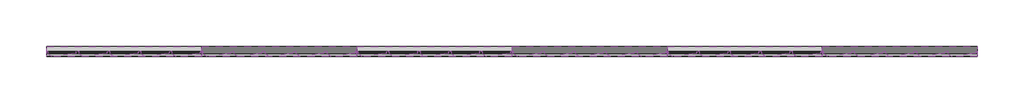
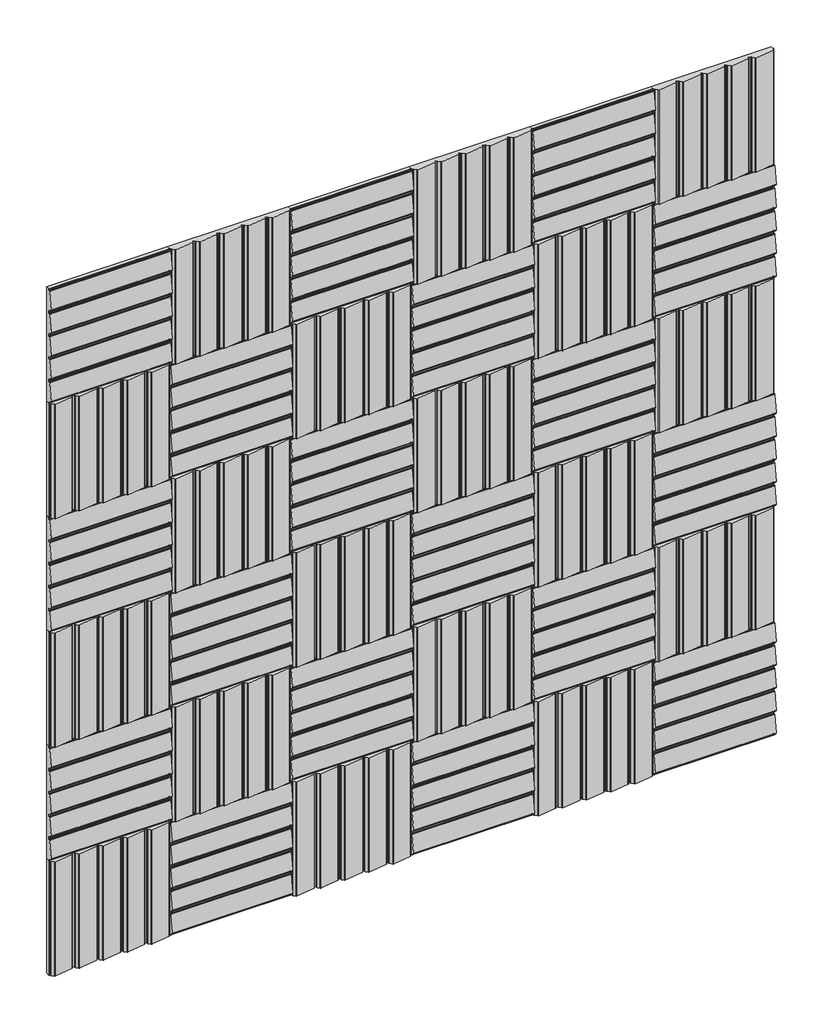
# One storey: 36 proxies.
"""IFC4 building model written with IfcOpenShell, lengths in millimetres."""

from ifc_helpers import new_model, si_unit, origin, place, context, project, spatial, transform, mapped, element, save
from components import specialty_equipment_dc48855c

model = new_model("IFC4")

# Units and contexts
model_context = context("Model", 3, world=origin())
ifc_project = project(units=[si_unit("LENGTHUNIT", "METRE", prefix="MILLI")], contexts=[model_context])

# Site, building, storey
site = spatial("IfcSite", under=ifc_project)
building = spatial("IfcBuilding", under=site)
storey = spatial("IfcBuildingStorey", under=building, Name="Nível 1", Elevation=0.0)

# Proxies
placement = place(None, origin())
specialty_equipment_shape = specialty_equipment_dc48855c(model_context)
element("IfcBuildingElementProxy", 1, Name="Spinneybeck_Porto 3 : Porto 3", ObjectType="Spinneybeck_Porto 3 : Porto 3", at=placement, inside=storey, context=model_context, shape_type="MappedRepresentation", body=[
    mapped(specialty_equipment_shape, transform((-6208.1950363, 552.5357437, 203.2), x_axis=(1.0, 0.0, 0.0), y_axis=(0.0, 0.0, 1.0), z_axis=(0.0, -1.0, 0.0))),
])
element("IfcBuildingElementProxy", 2, Name="Spinneybeck_Porto 3 : Porto 3", ObjectType="Spinneybeck_Porto 3 : Porto 3", at=placement, inside=storey, context=model_context, shape_type="MappedRepresentation", body=[
    mapped(specialty_equipment_shape, transform((-6208.1950363, 552.5357437, 609.6), x_axis=(0.0, 0.0, 1.0), y_axis=(-1.0, 0.0, 0.0), z_axis=(0.0, -1.0, 0.0))),
])
element("IfcBuildingElementProxy", 3, Name="Spinneybeck_Porto 3 : Porto 3", ObjectType="Spinneybeck_Porto 3 : Porto 3", at=placement, inside=storey, context=model_context, shape_type="MappedRepresentation", body=[
    mapped(specialty_equipment_shape, transform((-6208.1950363, 552.5357437, 1016.0), x_axis=(1.0, 0.0, 0.0), y_axis=(0.0, 0.0, 1.0), z_axis=(0.0, -1.0, 0.0))),
])
element("IfcBuildingElementProxy", 4, Name="Spinneybeck_Porto 3 : Porto 3", ObjectType="Spinneybeck_Porto 3 : Porto 3", at=placement, inside=storey, context=model_context, shape_type="MappedRepresentation", body=[
    mapped(specialty_equipment_shape, transform((-6208.1950363, 552.5357437, 1422.4), x_axis=(0.0, 0.0, 1.0), y_axis=(-1.0, 0.0, 0.0), z_axis=(0.0, -1.0, 0.0))),
])
element("IfcBuildingElementProxy", 5, Name="Spinneybeck_Porto 3 : Porto 3", ObjectType="Spinneybeck_Porto 3 : Porto 3", at=placement, inside=storey, context=model_context, shape_type="MappedRepresentation", body=[
    mapped(specialty_equipment_shape, transform((-6208.1950363, 552.5357437, 1828.8), x_axis=(1.0, 0.0, 0.0), y_axis=(0.0, 0.0, 1.0), z_axis=(0.0, -1.0, 0.0))),
])
element("IfcBuildingElementProxy", 6, Name="Spinneybeck_Porto 3 : Porto 3", ObjectType="Spinneybeck_Porto 3 : Porto 3", at=placement, inside=storey, context=model_context, shape_type="MappedRepresentation", body=[
    mapped(specialty_equipment_shape, transform((-6208.1950363, 552.5357437, 2235.2), x_axis=(0.0, 0.0, 1.0), y_axis=(-1.0, 0.0, 0.0), z_axis=(0.0, -1.0, 0.0))),
])
element("IfcBuildingElementProxy", 7, Name="Spinneybeck_Porto 3 : Porto 3", ObjectType="Spinneybeck_Porto 3 : Porto 3", at=placement, inside=storey, context=model_context, shape_type="MappedRepresentation", body=[
    mapped(specialty_equipment_shape, transform((-5801.7950363, 552.5357437, 203.2), x_axis=(0.0, 0.0, 1.0), y_axis=(-1.0, 0.0, 0.0), z_axis=(0.0, -1.0, 0.0))),
])
element("IfcBuildingElementProxy", 8, Name="Spinneybeck_Porto 3 : Porto 3", ObjectType="Spinneybeck_Porto 3 : Porto 3", at=placement, inside=storey, context=model_context, shape_type="MappedRepresentation", body=[
    mapped(specialty_equipment_shape, transform((-5801.7950363, 552.5357437, 609.6), x_axis=(1.0, 0.0, 0.0), y_axis=(0.0, 0.0, 1.0), z_axis=(0.0, -1.0, 0.0))),
])
element("IfcBuildingElementProxy", 9, Name="Spinneybeck_Porto 3 : Porto 3", ObjectType="Spinneybeck_Porto 3 : Porto 3", at=placement, inside=storey, context=model_context, shape_type="MappedRepresentation", body=[
    mapped(specialty_equipment_shape, transform((-5801.7950363, 552.5357437, 1016.0), x_axis=(0.0, 0.0, 1.0), y_axis=(-1.0, 0.0, 0.0), z_axis=(0.0, -1.0, 0.0))),
])
element("IfcBuildingElementProxy", 10, Name="Spinneybeck_Porto 3 : Porto 3", ObjectType="Spinneybeck_Porto 3 : Porto 3", at=placement, inside=storey, context=model_context, shape_type="MappedRepresentation", body=[
    mapped(specialty_equipment_shape, transform((-5801.7950363, 552.5357437, 1422.4), x_axis=(1.0, 0.0, 0.0), y_axis=(0.0, 0.0, 1.0), z_axis=(0.0, -1.0, 0.0))),
])
element("IfcBuildingElementProxy", 11, Name="Spinneybeck_Porto 3 : Porto 3", ObjectType="Spinneybeck_Porto 3 : Porto 3", at=placement, inside=storey, context=model_context, shape_type="MappedRepresentation", body=[
    mapped(specialty_equipment_shape, transform((-5801.7950363, 552.5357437, 1828.8), x_axis=(0.0, 0.0, 1.0), y_axis=(-1.0, 0.0, 0.0), z_axis=(0.0, -1.0, 0.0))),
])
element("IfcBuildingElementProxy", 12, Name="Spinneybeck_Porto 3 : Porto 3", ObjectType="Spinneybeck_Porto 3 : Porto 3", at=placement, inside=storey, context=model_context, shape_type="MappedRepresentation", body=[
    mapped(specialty_equipment_shape, transform((-5801.7950363, 552.5357437, 2235.2), x_axis=(1.0, 0.0, 0.0), y_axis=(0.0, 0.0, 1.0), z_axis=(0.0, -1.0, 0.0))),
])
element("IfcBuildingElementProxy", 13, Name="Spinneybeck_Porto 3 : Porto 3", ObjectType="Spinneybeck_Porto 3 : Porto 3", at=placement, inside=storey, context=model_context, shape_type="MappedRepresentation", body=[
    mapped(specialty_equipment_shape, transform((-5395.3950363, 552.5357437, 203.2), x_axis=(1.0, 0.0, 0.0), y_axis=(0.0, 0.0, 1.0), z_axis=(0.0, -1.0, 0.0))),
])
element("IfcBuildingElementProxy", 14, Name="Spinneybeck_Porto 3 : Porto 3", ObjectType="Spinneybeck_Porto 3 : Porto 3", at=placement, inside=storey, context=model_context, shape_type="MappedRepresentation", body=[
    mapped(specialty_equipment_shape, transform((-5395.3950363, 552.5357437, 609.6), x_axis=(0.0, 0.0, 1.0), y_axis=(-1.0, 0.0, 0.0), z_axis=(0.0, -1.0, 0.0))),
])
element("IfcBuildingElementProxy", 15, Name="Spinneybeck_Porto 3 : Porto 3", ObjectType="Spinneybeck_Porto 3 : Porto 3", at=placement, inside=storey, context=model_context, shape_type="MappedRepresentation", body=[
    mapped(specialty_equipment_shape, transform((-5395.3950363, 552.5357437, 1016.0), x_axis=(1.0, 0.0, 0.0), y_axis=(0.0, 0.0, 1.0), z_axis=(0.0, -1.0, 0.0))),
])
element("IfcBuildingElementProxy", 16, Name="Spinneybeck_Porto 3 : Porto 3", ObjectType="Spinneybeck_Porto 3 : Porto 3", at=placement, inside=storey, context=model_context, shape_type="MappedRepresentation", body=[
    mapped(specialty_equipment_shape, transform((-5395.3950363, 552.5357437, 1422.4), x_axis=(0.0, 0.0, 1.0), y_axis=(-1.0, 0.0, 0.0), z_axis=(0.0, -1.0, 0.0))),
])
element("IfcBuildingElementProxy", 17, Name="Spinneybeck_Porto 3 : Porto 3", ObjectType="Spinneybeck_Porto 3 : Porto 3", at=placement, inside=storey, context=model_context, shape_type="MappedRepresentation", body=[
    mapped(specialty_equipment_shape, transform((-5395.3950363, 552.5357437, 1828.8), x_axis=(1.0, 0.0, 0.0), y_axis=(0.0, 0.0, 1.0), z_axis=(0.0, -1.0, 0.0))),
])
element("IfcBuildingElementProxy", 18, Name="Spinneybeck_Porto 3 : Porto 3", ObjectType="Spinneybeck_Porto 3 : Porto 3", at=placement, inside=storey, context=model_context, shape_type="MappedRepresentation", body=[
    mapped(specialty_equipment_shape, transform((-5395.3950363, 552.5357437, 2235.2), x_axis=(0.0, 0.0, 1.0), y_axis=(-1.0, 0.0, 0.0), z_axis=(0.0, -1.0, 0.0))),
])
element("IfcBuildingElementProxy", 19, Name="Spinneybeck_Porto 3 : Porto 3", ObjectType="Spinneybeck_Porto 3 : Porto 3", at=placement, inside=storey, context=model_context, shape_type="MappedRepresentation", body=[
    mapped(specialty_equipment_shape, transform((-4988.9950363, 552.5357437, 203.2), x_axis=(0.0, 0.0, 1.0), y_axis=(-1.0, 0.0, 0.0), z_axis=(0.0, -1.0, 0.0))),
])
element("IfcBuildingElementProxy", 20, Name="Spinneybeck_Porto 3 : Porto 3", ObjectType="Spinneybeck_Porto 3 : Porto 3", at=placement, inside=storey, context=model_context, shape_type="MappedRepresentation", body=[
    mapped(specialty_equipment_shape, transform((-4988.9950363, 552.5357437, 609.6), x_axis=(1.0, 0.0, 0.0), y_axis=(0.0, 0.0, 1.0), z_axis=(0.0, -1.0, 0.0))),
])
element("IfcBuildingElementProxy", 21, Name="Spinneybeck_Porto 3 : Porto 3", ObjectType="Spinneybeck_Porto 3 : Porto 3", at=placement, inside=storey, context=model_context, shape_type="MappedRepresentation", body=[
    mapped(specialty_equipment_shape, transform((-4988.9950363, 552.5357437, 1016.0), x_axis=(0.0, 0.0, 1.0), y_axis=(-1.0, 0.0, 0.0), z_axis=(0.0, -1.0, 0.0))),
])
element("IfcBuildingElementProxy", 22, Name="Spinneybeck_Porto 3 : Porto 3", ObjectType="Spinneybeck_Porto 3 : Porto 3", at=placement, inside=storey, context=model_context, shape_type="MappedRepresentation", body=[
    mapped(specialty_equipment_shape, transform((-4988.9950363, 552.5357437, 1422.4), x_axis=(1.0, 0.0, 0.0), y_axis=(0.0, 0.0, 1.0), z_axis=(0.0, -1.0, 0.0))),
])
element("IfcBuildingElementProxy", 23, Name="Spinneybeck_Porto 3 : Porto 3", ObjectType="Spinneybeck_Porto 3 : Porto 3", at=placement, inside=storey, context=model_context, shape_type="MappedRepresentation", body=[
    mapped(specialty_equipment_shape, transform((-4988.9950363, 552.5357437, 1828.8), x_axis=(0.0, 0.0, 1.0), y_axis=(-1.0, 0.0, 0.0), z_axis=(0.0, -1.0, 0.0))),
])
element("IfcBuildingElementProxy", 24, Name="Spinneybeck_Porto 3 : Porto 3", ObjectType="Spinneybeck_Porto 3 : Porto 3", at=placement, inside=storey, context=model_context, shape_type="MappedRepresentation", body=[
    mapped(specialty_equipment_shape, transform((-4988.9950363, 552.5357437, 2235.2), x_axis=(1.0, 0.0, 0.0), y_axis=(0.0, 0.0, 1.0), z_axis=(0.0, -1.0, 0.0))),
])
element("IfcBuildingElementProxy", 25, Name="Spinneybeck_Porto 3 : Porto 3", ObjectType="Spinneybeck_Porto 3 : Porto 3", at=placement, inside=storey, context=model_context, shape_type="MappedRepresentation", body=[
    mapped(specialty_equipment_shape, transform((-4582.5950363, 552.5357437, 203.2), x_axis=(1.0, 0.0, 0.0), y_axis=(0.0, 0.0, 1.0), z_axis=(0.0, -1.0, 0.0))),
])
element("IfcBuildingElementProxy", 26, Name="Spinneybeck_Porto 3 : Porto 3", ObjectType="Spinneybeck_Porto 3 : Porto 3", at=placement, inside=storey, context=model_context, shape_type="MappedRepresentation", body=[
    mapped(specialty_equipment_shape, transform((-4582.5950363, 552.5357437, 609.6), x_axis=(0.0, 0.0, 1.0), y_axis=(-1.0, 0.0, 0.0), z_axis=(0.0, -1.0, 0.0))),
])
element("IfcBuildingElementProxy", 27, Name="Spinneybeck_Porto 3 : Porto 3", ObjectType="Spinneybeck_Porto 3 : Porto 3", at=placement, inside=storey, context=model_context, shape_type="MappedRepresentation", body=[
    mapped(specialty_equipment_shape, transform((-4582.5950363, 552.5357437, 1016.0), x_axis=(1.0, 0.0, 0.0), y_axis=(0.0, 0.0, 1.0), z_axis=(0.0, -1.0, 0.0))),
])
element("IfcBuildingElementProxy", 28, Name="Spinneybeck_Porto 3 : Porto 3", ObjectType="Spinneybeck_Porto 3 : Porto 3", at=placement, inside=storey, context=model_context, shape_type="MappedRepresentation", body=[
    mapped(specialty_equipment_shape, transform((-4582.5950363, 552.5357437, 1422.4), x_axis=(0.0, 0.0, 1.0), y_axis=(-1.0, 0.0, 0.0), z_axis=(0.0, -1.0, 0.0))),
])
element("IfcBuildingElementProxy", 29, Name="Spinneybeck_Porto 3 : Porto 3", ObjectType="Spinneybeck_Porto 3 : Porto 3", at=placement, inside=storey, context=model_context, shape_type="MappedRepresentation", body=[
    mapped(specialty_equipment_shape, transform((-4582.5950363, 552.5357437, 1828.8), x_axis=(1.0, 0.0, 0.0), y_axis=(0.0, 0.0, 1.0), z_axis=(0.0, -1.0, 0.0))),
])
element("IfcBuildingElementProxy", 30, Name="Spinneybeck_Porto 3 : Porto 3", ObjectType="Spinneybeck_Porto 3 : Porto 3", at=placement, inside=storey, context=model_context, shape_type="MappedRepresentation", body=[
    mapped(specialty_equipment_shape, transform((-4582.5950363, 552.5357437, 2235.2), x_axis=(0.0, 0.0, 1.0), y_axis=(-1.0, 0.0, 0.0), z_axis=(0.0, -1.0, 0.0))),
])
element("IfcBuildingElementProxy", 31, Name="Spinneybeck_Porto 3 : Porto 3", ObjectType="Spinneybeck_Porto 3 : Porto 3", at=placement, inside=storey, context=model_context, shape_type="MappedRepresentation", body=[
    mapped(specialty_equipment_shape, transform((-4176.1950363, 552.5357437, 203.2), x_axis=(0.0, 0.0, 1.0), y_axis=(-1.0, 0.0, 0.0), z_axis=(0.0, -1.0, 0.0))),
])
element("IfcBuildingElementProxy", 32, Name="Spinneybeck_Porto 3 : Porto 3", ObjectType="Spinneybeck_Porto 3 : Porto 3", at=placement, inside=storey, context=model_context, shape_type="MappedRepresentation", body=[
    mapped(specialty_equipment_shape, transform((-4176.1950363, 552.5357437, 609.6), x_axis=(1.0, 0.0, 0.0), y_axis=(0.0, 0.0, 1.0), z_axis=(0.0, -1.0, 0.0))),
])
element("IfcBuildingElementProxy", 33, Name="Spinneybeck_Porto 3 : Porto 3", ObjectType="Spinneybeck_Porto 3 : Porto 3", at=placement, inside=storey, context=model_context, shape_type="MappedRepresentation", body=[
    mapped(specialty_equipment_shape, transform((-4176.1950363, 552.5357437, 1016.0), x_axis=(0.0, 0.0, 1.0), y_axis=(-1.0, 0.0, 0.0), z_axis=(0.0, -1.0, 0.0))),
])
element("IfcBuildingElementProxy", 34, Name="Spinneybeck_Porto 3 : Porto 3", ObjectType="Spinneybeck_Porto 3 : Porto 3", at=placement, inside=storey, context=model_context, shape_type="MappedRepresentation", body=[
    mapped(specialty_equipment_shape, transform((-4176.1950363, 552.5357437, 1422.4), x_axis=(1.0, 0.0, 0.0), y_axis=(0.0, 0.0, 1.0), z_axis=(0.0, -1.0, 0.0))),
])
element("IfcBuildingElementProxy", 35, Name="Spinneybeck_Porto 3 : Porto 3", ObjectType="Spinneybeck_Porto 3 : Porto 3", at=placement, inside=storey, context=model_context, shape_type="MappedRepresentation", body=[
    mapped(specialty_equipment_shape, transform((-4176.1950363, 552.5357437, 1828.8), x_axis=(0.0, 0.0, 1.0), y_axis=(-1.0, 0.0, 0.0), z_axis=(0.0, -1.0, 0.0))),
])
element("IfcBuildingElementProxy", 36, Name="Spinneybeck_Porto 3 : Porto 3", ObjectType="Spinneybeck_Porto 3 : Porto 3", at=placement, inside=storey, context=model_context, shape_type="MappedRepresentation", body=[
    mapped(specialty_equipment_shape, transform((-4176.1950363, 552.5357437, 2235.2), x_axis=(1.0, 0.0, 0.0), y_axis=(0.0, 0.0, 1.0), z_axis=(0.0, -1.0, 0.0))),
])

save(model, "model.ifc")
